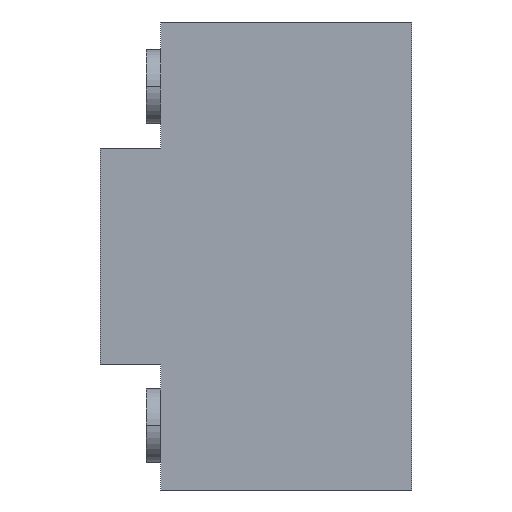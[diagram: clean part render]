
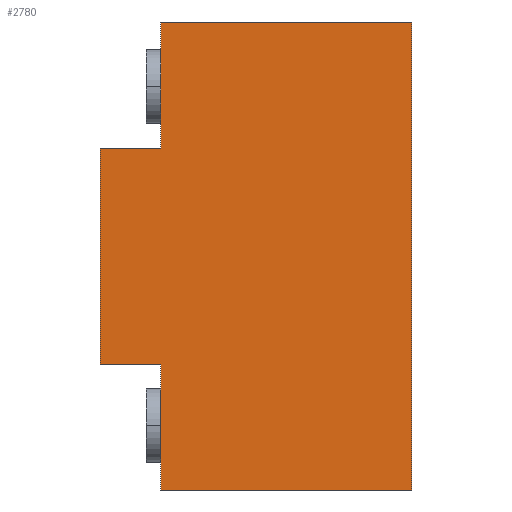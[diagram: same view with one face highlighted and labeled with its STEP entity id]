
A CAD part, left-side view. The second image highlights one B-rep face of the part: STEP entity #2780.
In plain terms, the highlighted planar face has unit normal (-1, 0, 0).
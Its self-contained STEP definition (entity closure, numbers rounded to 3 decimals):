
#1=DIRECTION('',(0.,1.,0.));
#2=VECTOR('',#1,34.9);
#3=CARTESIAN_POINT('',(-188.1,0.,-32.5));
#4=LINE('',#3,#2);
#5=DIRECTION('',(0.,0.,1.));
#6=VECTOR('',#5,17.5);
#7=CARTESIAN_POINT('',(-188.1,34.9,-32.5));
#8=LINE('',#7,#6);
#9=DIRECTION('',(0.,1.,0.));
#10=VECTOR('',#9,8.4);
#11=CARTESIAN_POINT('',(-188.1,34.9,-15.));
#12=LINE('',#11,#10);
#13=DIRECTION('',(0.,0.,1.));
#14=VECTOR('',#13,30.);
#15=CARTESIAN_POINT('',(-188.1,43.3,-15.));
#16=LINE('',#15,#14);
#17=DIRECTION('',(0.,-1.,0.));
#18=VECTOR('',#17,8.4);
#19=CARTESIAN_POINT('',(-188.1,43.3,15.));
#20=LINE('',#19,#18);
#21=DIRECTION('',(0.,0.,1.));
#22=VECTOR('',#21,17.5);
#23=CARTESIAN_POINT('',(-188.1,34.9,15.));
#24=LINE('',#23,#22);
#25=DIRECTION('',(0.,-1.,0.));
#26=VECTOR('',#25,34.9);
#27=CARTESIAN_POINT('',(-188.1,34.9,32.5));
#28=LINE('',#27,#26);
#29=DIRECTION('',(0.,0.,-1.));
#30=VECTOR('',#29,65.);
#31=CARTESIAN_POINT('',(-188.1,0.,32.5));
#32=LINE('',#31,#30);
#2105=CARTESIAN_POINT('',(-188.1,0.,-32.5));
#2106=CARTESIAN_POINT('',(-188.1,34.9,-32.5));
#2107=VERTEX_POINT('',#2105);
#2108=VERTEX_POINT('',#2106);
#2109=CARTESIAN_POINT('',(-188.1,34.9,-15.));
#2110=VERTEX_POINT('',#2109);
#2111=CARTESIAN_POINT('',(-188.1,43.3,-15.));
#2112=VERTEX_POINT('',#2111);
#2113=CARTESIAN_POINT('',(-188.1,43.3,15.));
#2114=VERTEX_POINT('',#2113);
#2115=CARTESIAN_POINT('',(-188.1,34.9,15.));
#2116=VERTEX_POINT('',#2115);
#2117=CARTESIAN_POINT('',(-188.1,34.9,32.5));
#2118=VERTEX_POINT('',#2117);
#2119=CARTESIAN_POINT('',(-188.1,0.,32.5));
#2120=VERTEX_POINT('',#2119);
#2757=CARTESIAN_POINT('',(-188.1,0.,0.));
#2758=DIRECTION('',(1.,0.,0.));
#2759=DIRECTION('',(0.,-1.,0.));
#2760=AXIS2_PLACEMENT_3D('',#2757,#2758,#2759);
#2761=PLANE('',#2760);
#2763=ORIENTED_EDGE('',*,*,#2762,.T.);
#2765=ORIENTED_EDGE('',*,*,#2764,.T.);
#2767=ORIENTED_EDGE('',*,*,#2766,.T.);
#2769=ORIENTED_EDGE('',*,*,#2768,.T.);
#2771=ORIENTED_EDGE('',*,*,#2770,.T.);
#2773=ORIENTED_EDGE('',*,*,#2772,.T.);
#2775=ORIENTED_EDGE('',*,*,#2774,.T.);
#2777=ORIENTED_EDGE('',*,*,#2776,.T.);
#2778=EDGE_LOOP('',(#2763,#2765,#2767,#2769,#2771,#2773,#2775,#2777));
#2779=FACE_OUTER_BOUND('',#2778,.F.);
#2780=ADVANCED_FACE('',(#2779),#2761,.F.);
#2762=EDGE_CURVE('',#2107,#2108,#4,.T.);
#2764=EDGE_CURVE('',#2108,#2110,#8,.T.);
#2766=EDGE_CURVE('',#2110,#2112,#12,.T.);
#2768=EDGE_CURVE('',#2112,#2114,#16,.T.);
#2770=EDGE_CURVE('',#2114,#2116,#20,.T.);
#2772=EDGE_CURVE('',#2116,#2118,#24,.T.);
#2774=EDGE_CURVE('',#2118,#2120,#28,.T.);
#2776=EDGE_CURVE('',#2120,#2107,#32,.T.);
